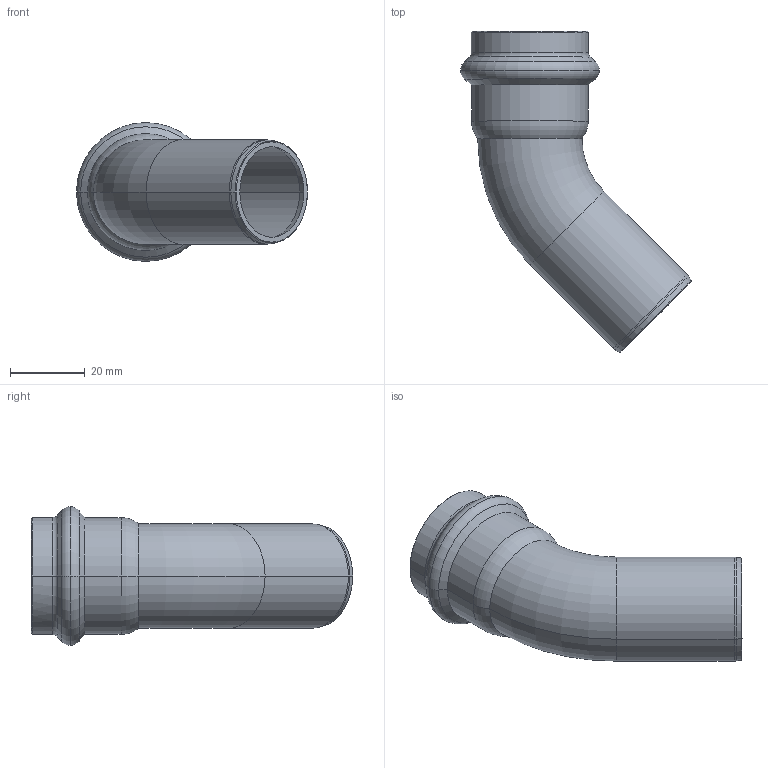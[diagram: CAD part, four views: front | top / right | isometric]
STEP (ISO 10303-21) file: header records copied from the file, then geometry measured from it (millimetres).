
FILE_DESCRIPTION(('CoCreate Modeling STEP Export'),'2;1');
FILE_NAME('8040VW28.stp','2013-01-29T14:42:39',(''),(''),'CoCreate Modeling STEP processor for AP214 (Solid Model)','CoCreate Modeling 17.00A 17-Jun-2010 (C) Parametric Technology GmbH','');
FILE_SCHEMA(('AUTOMOTIVE_DESIGN { 1 0 10303 214 1 1 1 1 }'));
Length unit declared in the file: millimetre
Products named in the file (1): 8040VW28
Bounding box: 61.94 x 86.17 x 37.2 mm (x, y, z)
Volume: 13341.6 mm3; surface area: 16290.8 mm2
Topology: 1 solids, 1 shells, 58 faces, 129 edges, 77 vertices
Faces by surface type: torus 20, cylinder 16, cone 16, plane 6
Entity records: 1310 total; most frequent: ORIENTED_EDGE 258, DIRECTION 204, CARTESIAN_POINT 195, EDGE_CURVE 129, AXIS2_PLACEMENT_3D 86, VERTEX_POINT 77, EDGE_LOOP 64, FACE_OUTER_BOUND 58
